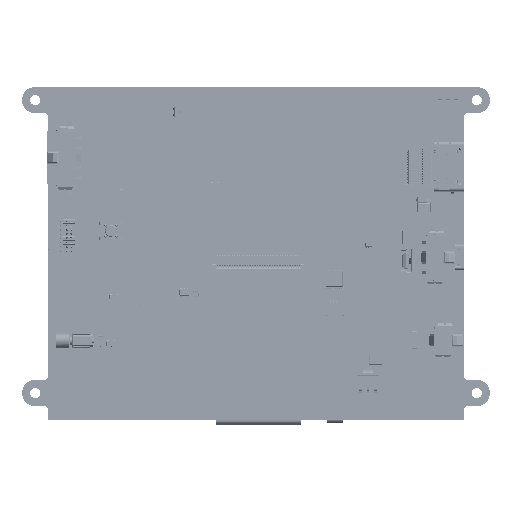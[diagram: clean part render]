
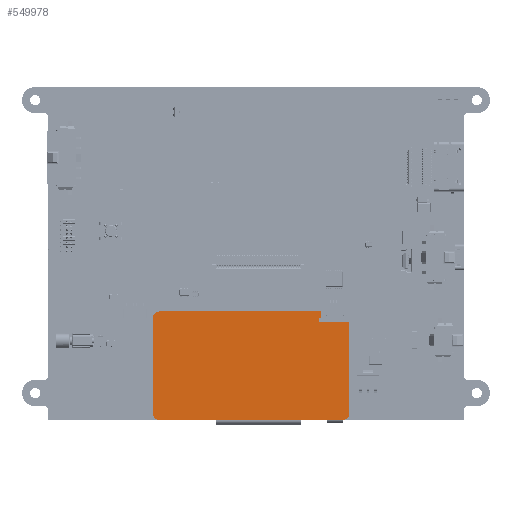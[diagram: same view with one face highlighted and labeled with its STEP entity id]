
A CAD part, top view. The second image highlights one B-rep face of the part: STEP entity #549978.
In plain terms, the highlighted planar face has unit normal (0, 0, 1) as drawn and (0, 0, -1) by its records, which use the part's own axes.
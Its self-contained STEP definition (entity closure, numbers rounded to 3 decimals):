
#5510 = EDGE_LOOP ( 'NONE', ( #725873, #673331, #138552, #590751, #739744, #380258, #191666, #502553 ) ) ;
#27143 = DIRECTION ( 'NONE',  ( 1., 0., 0. ) ) ;
#35684 = EDGE_CURVE ( 'NONE', #652959, #579254, #359419, .T. ) ;
#50308 = EDGE_CURVE ( 'NONE', #303033, #684026, #375747, .T. ) ;
#74594 = AXIS2_PLACEMENT_3D ( 'NONE', #286527, #574271, #462863 ) ;
#77002 = CARTESIAN_POINT ( 'NONE',  ( -26.08, -19.45, -4.377 ) ) ;
#77447 = VECTOR ( 'NONE', #111125, 1000. ) ;
#98921 = AXIS2_PLACEMENT_3D ( 'NONE', #558562, #267036, #500955 ) ;
#108091 = DIRECTION ( 'NONE',  ( 0., 0., -1. ) ) ;
#111125 = DIRECTION ( 'NONE',  ( -1., 0., 0. ) ) ;
#122340 = CIRCLE ( 'NONE', #330244, 2. ) ;
#135396 = CARTESIAN_POINT ( 'NONE',  ( 31.02, -19.45, -4.377 ) ) ;
#135511 = CIRCLE ( 'NONE', #98921, 2. ) ;
#138552 = ORIENTED_EDGE ( 'NONE', *, *, #732527, .T. ) ;
#153378 = CARTESIAN_POINT ( 'NONE',  ( 31.02, -50., -4.377 ) ) ;
#154969 = CARTESIAN_POINT ( 'NONE',  ( -28.08, -48., -4.377 ) ) ;
#186052 = AXIS2_PLACEMENT_3D ( 'NONE', #705826, #108091, #648404 ) ;
#191666 = ORIENTED_EDGE ( 'NONE', *, *, #35684, .T. ) ;
#191799 = DIRECTION ( 'NONE',  ( 0., 1., 0. ) ) ;
#223318 = CARTESIAN_POINT ( 'NONE',  ( 29.02, -17.45, -4.377 ) ) ;
#262414 = CARTESIAN_POINT ( 'NONE',  ( 31.02, -48., -4.377 ) ) ;
#267036 = DIRECTION ( 'NONE',  ( 0., 0., -1. ) ) ;
#286527 = CARTESIAN_POINT ( 'NONE',  ( 29.02, -48., -4.377 ) ) ;
#287423 = VERTEX_POINT ( 'NONE', #135396 ) ;
#303033 = VERTEX_POINT ( 'NONE', #473546 ) ;
#311019 = CARTESIAN_POINT ( 'NONE',  ( -26.08, -48., -4.377 ) ) ;
#313873 = EDGE_CURVE ( 'NONE', #482174, #358802, #429426, .T. ) ;
#330244 = AXIS2_PLACEMENT_3D ( 'NONE', #77002, #709549, #191799 ) ;
#351851 = CARTESIAN_POINT ( 'NONE',  ( -28.08, -17.45, -4.377 ) ) ;
#358802 = VERTEX_POINT ( 'NONE', #372884 ) ;
#359419 = LINE ( 'NONE', #351851, #380828 ) ;
#360916 = DIRECTION ( 'NONE',  ( 0., 0., -1. ) ) ;
#365664 = VERTEX_POINT ( 'NONE', #484931 ) ;
#367483 = EDGE_CURVE ( 'NONE', #579254, #303033, #122340, .T. ) ;
#372884 = CARTESIAN_POINT ( 'NONE',  ( 29.02, -50., -4.377 ) ) ;
#375747 = LINE ( 'NONE', #433243, #413895 ) ;
#380258 = ORIENTED_EDGE ( 'NONE', *, *, #542887, .T. ) ;
#380828 = VECTOR ( 'NONE', #409438, 1000. ) ;
#386487 = CIRCLE ( 'NONE', #423131, 2. ) ;
#394827 = LINE ( 'NONE', #153378, #77447 ) ;
#409438 = DIRECTION ( 'NONE',  ( 0., 1., 0. ) ) ;
#413895 = VECTOR ( 'NONE', #27143, 1000. ) ;
#423131 = AXIS2_PLACEMENT_3D ( 'NONE', #311019, #360916, #433560 ) ;
#429426 = CIRCLE ( 'NONE', #74594, 2. ) ;
#433243 = CARTESIAN_POINT ( 'NONE',  ( 31.02, -17.45, -4.377 ) ) ;
#433560 = DIRECTION ( 'NONE',  ( 0., 1., 0. ) ) ;
#444631 = CARTESIAN_POINT ( 'NONE',  ( -28.08, -19.45, -4.377 ) ) ;
#462863 = DIRECTION ( 'NONE',  ( 0., 1., 0. ) ) ;
#463828 = VECTOR ( 'NONE', #496503, 1000. ) ;
#464367 = FACE_OUTER_BOUND ( 'NONE', #5510, .T. ) ;
#473546 = CARTESIAN_POINT ( 'NONE',  ( -26.08, -17.45, -4.377 ) ) ;
#482174 = VERTEX_POINT ( 'NONE', #262414 ) ;
#484931 = CARTESIAN_POINT ( 'NONE',  ( -26.08, -50., -4.377 ) ) ;
#496503 = DIRECTION ( 'NONE',  ( 0., -1., 0. ) ) ;
#500955 = DIRECTION ( 'NONE',  ( 0., 1., 0. ) ) ;
#502553 = ORIENTED_EDGE ( 'NONE', *, *, #367483, .T. ) ;
#504076 = CARTESIAN_POINT ( 'NONE',  ( 31.02, -17.45, -4.377 ) ) ;
#542887 = EDGE_CURVE ( 'NONE', #365664, #652959, #386487, .T. ) ;
#549978 = ADVANCED_FACE ( 'NONE', ( #464367 ), #644639, .T. ) ;
#550348 = LINE ( 'NONE', #504076, #463828 ) ;
#558562 = CARTESIAN_POINT ( 'NONE',  ( 29.02, -19.45, -4.377 ) ) ;
#574271 = DIRECTION ( 'NONE',  ( 0., 0., -1. ) ) ;
#579254 = VERTEX_POINT ( 'NONE', #444631 ) ;
#590751 = ORIENTED_EDGE ( 'NONE', *, *, #313873, .T. ) ;
#599250 = EDGE_CURVE ( 'NONE', #358802, #365664, #394827, .T. ) ;
#644639 = PLANE ( 'NONE',  #186052 ) ;
#648404 = DIRECTION ( 'NONE',  ( 0., 1., 0. ) ) ;
#652959 = VERTEX_POINT ( 'NONE', #154969 ) ;
#673331 = ORIENTED_EDGE ( 'NONE', *, *, #700933, .T. ) ;
#684026 = VERTEX_POINT ( 'NONE', #223318 ) ;
#700933 = EDGE_CURVE ( 'NONE', #684026, #287423, #135511, .T. ) ;
#705826 = CARTESIAN_POINT ( 'NONE',  ( 0., 0., -4.377 ) ) ;
#709549 = DIRECTION ( 'NONE',  ( 0., 0., -1. ) ) ;
#725873 = ORIENTED_EDGE ( 'NONE', *, *, #50308, .T. ) ;
#732527 = EDGE_CURVE ( 'NONE', #287423, #482174, #550348, .T. ) ;
#739744 = ORIENTED_EDGE ( 'NONE', *, *, #599250, .T. ) ;
